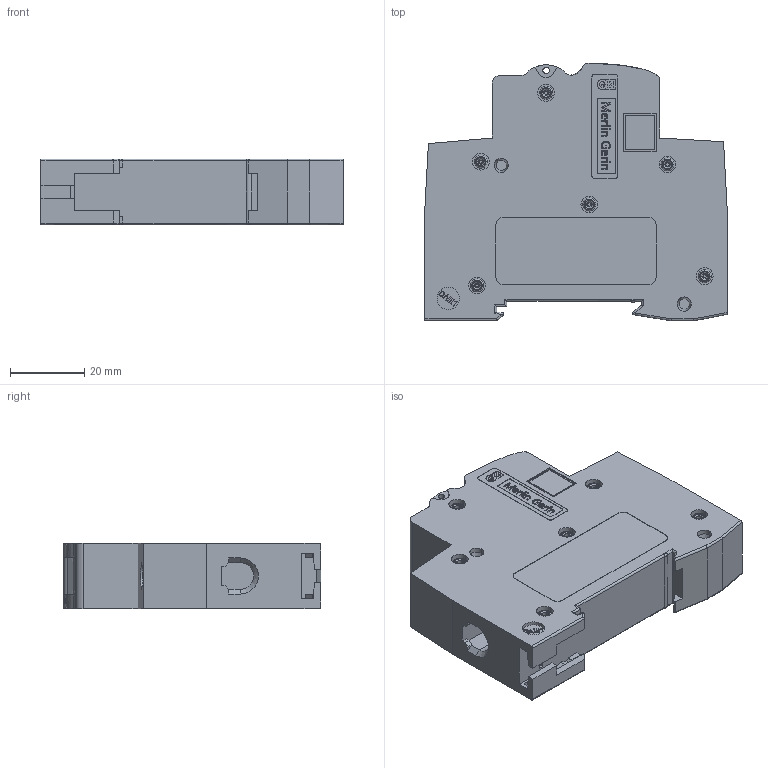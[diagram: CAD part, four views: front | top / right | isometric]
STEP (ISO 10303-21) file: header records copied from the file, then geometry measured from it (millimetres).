
FILE_DESCRIPTION (( 'STEP AP214' ), '1' );
FILE_NAME ('Circuit breaker Schneider Electric BA63.STEP', '2024-05-13T21:03:48', ( '' ), ( '' ), 'SwSTEP 2.0', 'SolidWorks 2020', '' );
FILE_SCHEMA (( 'AUTOMOTIVE_DESIGN' ));
Length unit declared in the file: millimetre
Products named in the file (1): Circuit breaker Schneider Electric BA63
Bounding box: 81.15 x 69.24 x 17.7 mm (x, y, z)
Volume: 75102.9 mm3; surface area: 17553.5 mm2
Topology: 1 solids, 1 shells, 1441 faces, 3733 edges, 2464 vertices
Faces by surface type: plane 774, bspline 453, cylinder 166, torus 38, cone 10
Entity records: 68493 total; most frequent: CARTESIAN_POINT 32227, ORIENTED_EDGE 7466, DIRECTION 5042, EDGE_CURVE 3733, VERTEX_POINT 2464, LINE 2296, VECTOR 2296, EDGE_LOOP 1615
